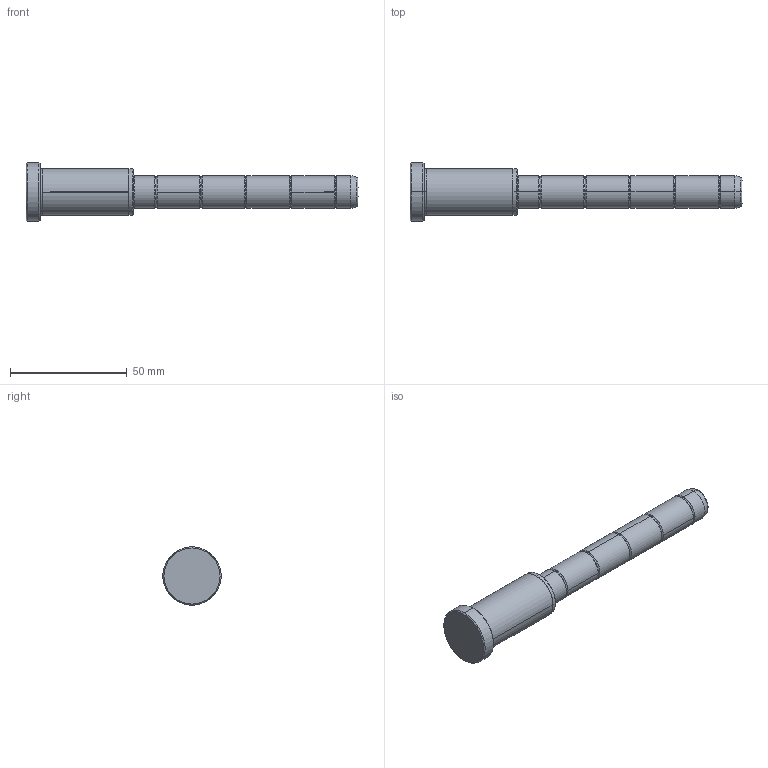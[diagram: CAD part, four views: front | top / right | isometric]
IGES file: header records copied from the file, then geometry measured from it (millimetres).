
Start section: SolidWorks IGES file using analytic representation for surfaces
Global section: file name: C:\Users\Dell\Desktop\deltakont\kontrol edilecekler\D02\Ø14\D02_14x46x96.IGS; native system: SolidWorks 2010; preprocessor: SolidWorks 2010; author: Dell; date: 111225.225547; units: millimetre
Bounding box: 142 x 25 x 25 mm (x, y, z)
Surface area: 8181.7 mm2 (no closed solid volume)
Topology: 0 solids, 0 shells, 60 faces, 551 edges, 551 vertices
Faces by surface type: revolution 30, bspline 30
